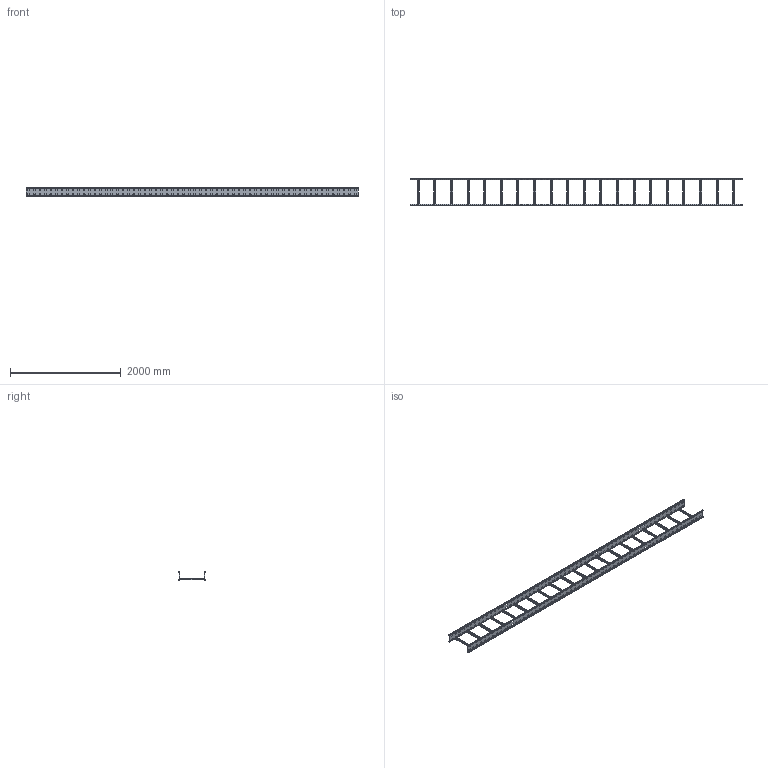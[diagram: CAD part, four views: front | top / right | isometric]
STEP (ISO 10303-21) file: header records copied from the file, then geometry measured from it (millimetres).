
FILE_DESCRIPTION(('Creo Elements/Direct Modeling STEP Export'),'2;1');
FILE_NAME('WP15-45-HDG.stp','2016-11-10T10:53:47',(''),(''),'PTC Creo Elements/Direct Modeling STEP processor for AP214 (Solid Model)','PTC Creo Elements/Direct Modeling 19.0C 15-Aug-2015 (C) Parametric Technology GmbH','');
FILE_SCHEMA(('AUTOMOTIVE_DESIGN { 1 0 10303 214 1 1 1 1 }'));
Length unit declared in the file: millimetre
Products named in the file (3): WPH150.1; WPSP_045.1.17; WP15-45-HDG
Assembly tree (22 placements, depth 2):
  WP15-45-HDG
    WPSP_045.1.17  x20
    WPH150.1  x2
Bounding box: 6000 x 500 x 150 mm (x, y, z)
Volume: 5619700.1 mm3; surface area: 6799949.9 mm2
Topology: 22 solids, 22 shells, 3532 faces, 10464 edges, 6976 vertices
Faces by surface type: plane 2212, cylinder 1320
Entity records: 24566 total; most frequent: ORIENTED_EDGE 4308, CARTESIAN_POINT 4249, DIRECTION 3787, EDGE_CURVE 2154, VECTOR 1839, LINE 1839, VERTEX_POINT 1436, EDGE_LOOP 1076
